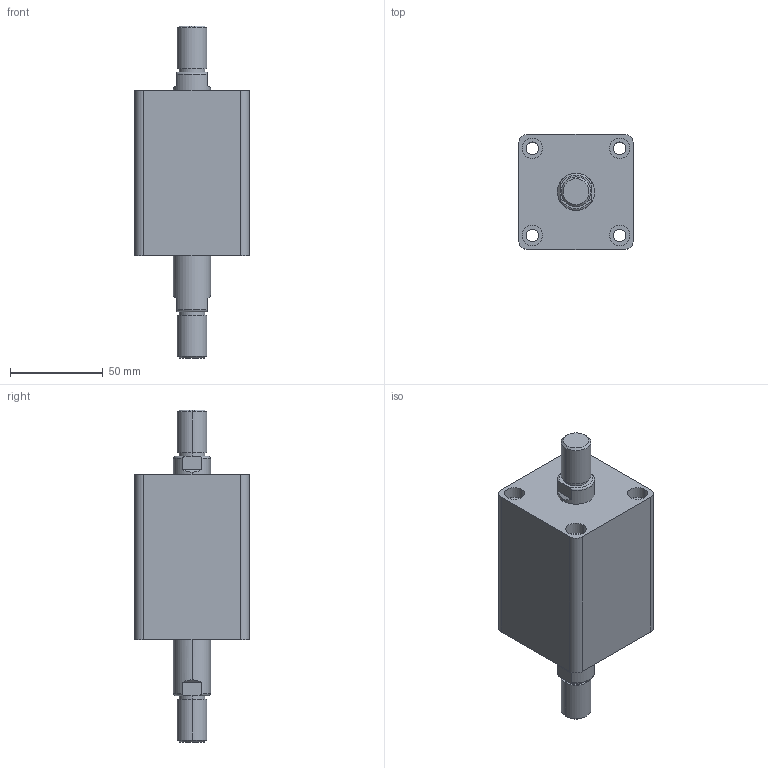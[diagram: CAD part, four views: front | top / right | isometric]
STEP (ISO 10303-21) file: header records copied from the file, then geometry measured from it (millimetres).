
FILE_DESCRIPTION (( 'STEP AP203' ), '1' );
FILE_NAME ('HTB-SW32-20W.STEP', '2019-10-07T08:51:16', ( '微软用户' ), ( '微软中国' ), 'SwSTEP 2.0', 'SolidWorks 2012', '' );
FILE_SCHEMA (( 'CONFIG_CONTROL_DESIGN' ));
Length unit declared in the file: millimetre
Products named in the file (3): HTB-SW32-20W; HTB-SW32-20W活塞杆; HTB-SW32-20掛极
Assembly tree (2 placements, depth 2):
  HTB-SW32-20W
    HTB-SW32-20掛极
    HTB-SW32-20W活塞杆
Bounding box: 62 x 62 x 179 mm (x, y, z)
Volume: 334260.8 mm3; surface area: 57905.7 mm2
Topology: 2 solids, 2 shells, 108 faces, 240 edges, 156 vertices
Faces by surface type: cylinder 52, plane 36, torus 12, cone 8
Entity records: 3449 total; most frequent: CARTESIAN_POINT 629, DIRECTION 586, ORIENTED_EDGE 480, AXIS2_PLACEMENT_3D 249, EDGE_CURVE 240, VERTEX_POINT 156, EDGE_LOOP 138, CIRCLE 136
